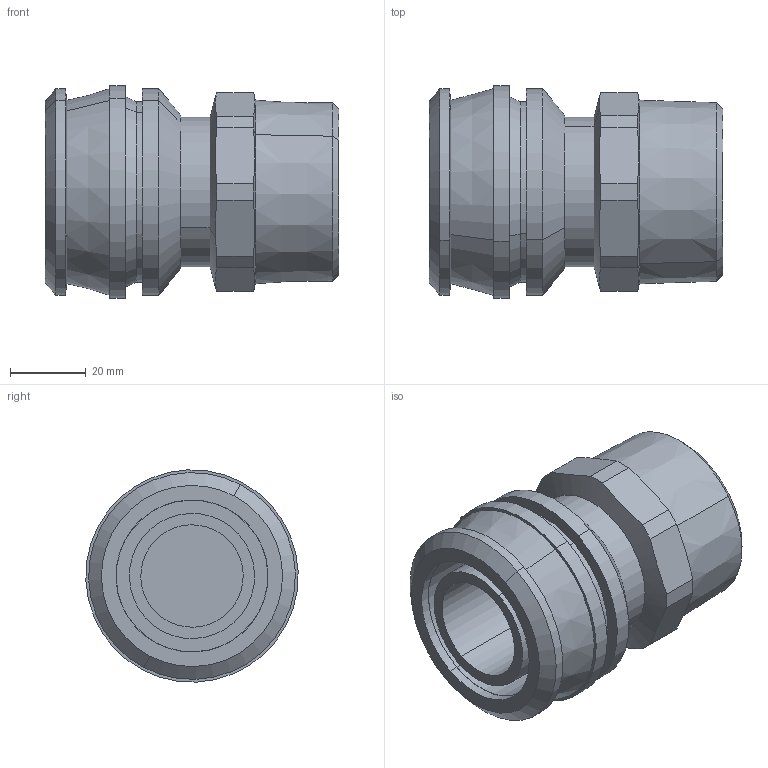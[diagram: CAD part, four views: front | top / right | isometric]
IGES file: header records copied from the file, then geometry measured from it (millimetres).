
Start section: 3D InterOp IGES (Version 25 0 1), Spatial Corp. Copyright (c) 1999-2007.
Global section: file name: pim0008707.igs; native system: Spatial Corp.; preprocessor: 3D InterOp ACIS/IGES; author: CAD-PIM; organization: TransMagic, Inc.; date: 20150618.094545; units: millimetre
Bounding box: 77.5 x 55.96 x 55.96 mm (x, y, z)
Volume: 121627.4 mm3; surface area: 26688.5 mm2
Topology: 1 solids, 1 shells, 62 faces, 168 edges, 116 vertices
Faces by surface type: cylinder 24, plane 18, cone 14, bspline 6
